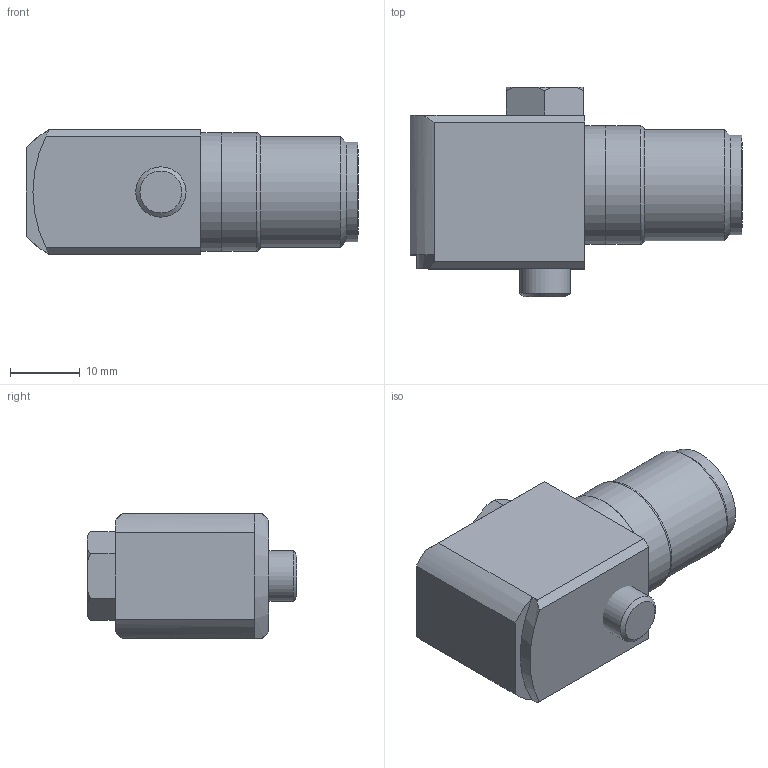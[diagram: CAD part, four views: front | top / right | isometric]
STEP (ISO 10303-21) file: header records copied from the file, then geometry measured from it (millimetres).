
FILE_DESCRIPTION(/* description */ (''),/* implementation_level */ '2;1');
FILE_NAME(/* name */ 'HS-180SXXX5002.stp',/* time_stamp */ '2025-03-10T13:09:32Z',/* author */ ('Kieran.Davis'),/* organization */ (''),/* preprocessor_version */ 'ST-DEVELOPER v20',/* originating_system */ 'Autodesk Inventor 2024',/* authorisation */ '');
FILE_SCHEMA (('AUTOMOTIVE_DESIGN { 1 0 10303 214 3 1 1 }'));
Length unit declared in the file: millimetre
Products named in the file (5): HS-180SXXX5002; C02-130-D Modified 2 Pin MS Connector; M01-213-A(1-4-28UNF Mod Hex Bolt); M02-122-C HS-180S Side Exit Base; M05-102-A (HS-180S Side Exit Sealing Cap)
Assembly tree (4 placements, depth 2):
  HS-180SXXX5002
    C02-130-D Modified 2 Pin MS Connector
    M01-213-A(1-4-28UNF Mod Hex Bolt)
    M02-122-C HS-180S Side Exit Base
    M05-102-A (HS-180S Side Exit Sealing Cap)
Bounding box: 47.5 x 30 x 18 mm (x, y, z)
Volume: 9684.7 mm3; surface area: 7647.5 mm2
Topology: 4 solids, 4 shells, 67 faces, 141 edges, 92 vertices
Faces by surface type: plane 33, cylinder 19, cone 11, torus 4
Full cylindrical faces by diameter (mm): 2.5 x1, 4.5 x1, 5.359 x1, 6.5 x1, 7.2 x1, 10.4 x1, 11.5 x1, 13.8 x1, 14.2 x3, 15.2 x1, 15.5 x1, 15.9 x1, 16.9 x1, 17 x1
Entity records: 2056 total; most frequent: CARTESIAN_POINT 368, DIRECTION 345, ORIENTED_EDGE 282, EDGE_CURVE 141, AXIS2_PLACEMENT_3D 141, VERTEX_POINT 92, EDGE_LOOP 81, FACE_OUTER_BOUND 67
